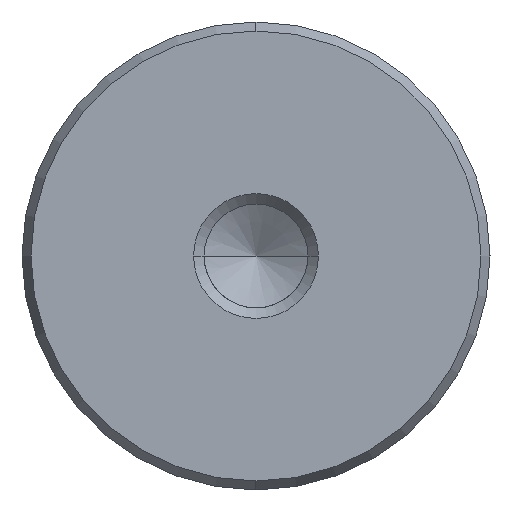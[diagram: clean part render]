
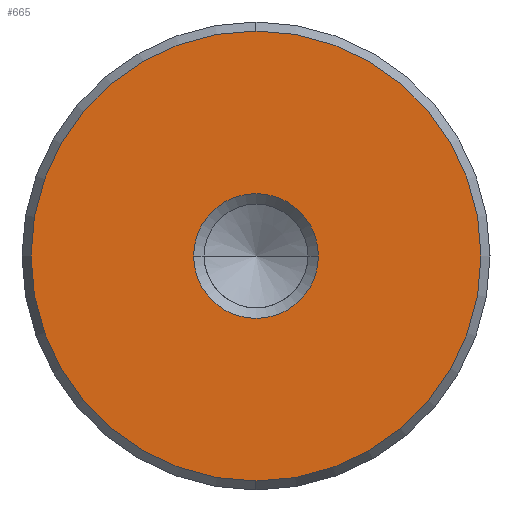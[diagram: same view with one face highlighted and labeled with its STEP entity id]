
A CAD part, left-side view. The second image highlights one B-rep face of the part: STEP entity #665.
In plain terms, the highlighted planar face has unit normal (-1, 0, 0).
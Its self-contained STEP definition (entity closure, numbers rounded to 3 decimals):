
#579=CARTESIAN_POINT('Vertex',(0.,0.,-14.423)) ;
#582=CARTESIAN_POINT('Axis2P3D Location',(0.,0.,0.)) ;
#586=CARTESIAN_POINT('Vertex',(0.,14.423,0.)) ;
#589=CARTESIAN_POINT('Axis2P3D Location',(0.,0.,0.)) ;
#593=CARTESIAN_POINT('Vertex',(0.,0.,14.423)) ;
#615=CARTESIAN_POINT('Axis2P3D Location',(0.,0.,0.)) ;
#619=CARTESIAN_POINT('Vertex',(0.,-14.423,0.)) ;
#622=CARTESIAN_POINT('Axis2P3D Location',(0.,0.,0.)) ;
#636=CARTESIAN_POINT('Axis2P3D Location',(0.,0.,0.)) ;
#647=CARTESIAN_POINT('Axis2P3D Location',(0.,0.,0.)) ;
#651=CARTESIAN_POINT('Vertex',(0.,4.,0.)) ;
#653=CARTESIAN_POINT('Vertex',(0.,-4.,0.)) ;
#656=CARTESIAN_POINT('Axis2P3D Location',(0.,0.,0.)) ;
#583=DIRECTION('Axis2P3D Direction',(1.,0.,-0.)) ;
#590=DIRECTION('Axis2P3D Direction',(1.,0.,-0.)) ;
#616=DIRECTION('Axis2P3D Direction',(1.,0.,-0.)) ;
#623=DIRECTION('Axis2P3D Direction',(1.,0.,-0.)) ;
#637=DIRECTION('Axis2P3D Direction',(1.,0.,-0.)) ;
#638=DIRECTION('Axis2P3D XDirection',(-0.,0.,-1.)) ;
#648=DIRECTION('Axis2P3D Direction',(1.,0.,-0.)) ;
#657=DIRECTION('Axis2P3D Direction',(1.,0.,-0.)) ;
#584=AXIS2_PLACEMENT_3D('Circle Axis2P3D',#582,#583,$) ;
#591=AXIS2_PLACEMENT_3D('Circle Axis2P3D',#589,#590,$) ;
#617=AXIS2_PLACEMENT_3D('Circle Axis2P3D',#615,#616,$) ;
#624=AXIS2_PLACEMENT_3D('Circle Axis2P3D',#622,#623,$) ;
#639=AXIS2_PLACEMENT_3D('Plane Axis2P3D',#636,#637,#638) ;
#649=AXIS2_PLACEMENT_3D('Circle Axis2P3D',#647,#648,$) ;
#658=AXIS2_PLACEMENT_3D('Circle Axis2P3D',#656,#657,$) ;
#642=ORIENTED_EDGE('',*,*,#588,.F.) ;
#643=ORIENTED_EDGE('',*,*,#626,.F.) ;
#644=ORIENTED_EDGE('',*,*,#621,.F.) ;
#645=ORIENTED_EDGE('',*,*,#595,.F.) ;
#662=ORIENTED_EDGE('',*,*,#655,.T.) ;
#663=ORIENTED_EDGE('',*,*,#660,.T.) ;
#664=FACE_BOUND('',#661,.T.) ;
#665=ADVANCED_FACE('720-30x400',(#646,#664),#640,.F.) ;
#585=CIRCLE('generated circle',#584,14.423) ;
#592=CIRCLE('generated circle',#591,14.423) ;
#618=CIRCLE('generated circle',#617,14.423) ;
#625=CIRCLE('generated circle',#624,14.423) ;
#650=CIRCLE('generated circle',#649,4.) ;
#659=CIRCLE('generated circle',#658,4.) ;
#588=EDGE_CURVE('',#580,#587,#585,.T.) ;
#595=EDGE_CURVE('',#587,#594,#592,.T.) ;
#621=EDGE_CURVE('',#594,#620,#618,.T.) ;
#626=EDGE_CURVE('',#620,#580,#625,.T.) ;
#655=EDGE_CURVE('',#652,#654,#650,.T.) ;
#660=EDGE_CURVE('',#654,#652,#659,.T.) ;
#641=EDGE_LOOP('',(#642,#643,#644,#645)) ;
#661=EDGE_LOOP('',(#662,#663)) ;
#646=FACE_OUTER_BOUND('',#641,.T.) ;
#640=PLANE('Plane',#639) ;
#580=VERTEX_POINT('',#579) ;
#587=VERTEX_POINT('',#586) ;
#594=VERTEX_POINT('',#593) ;
#620=VERTEX_POINT('',#619) ;
#652=VERTEX_POINT('',#651) ;
#654=VERTEX_POINT('',#653) ;
